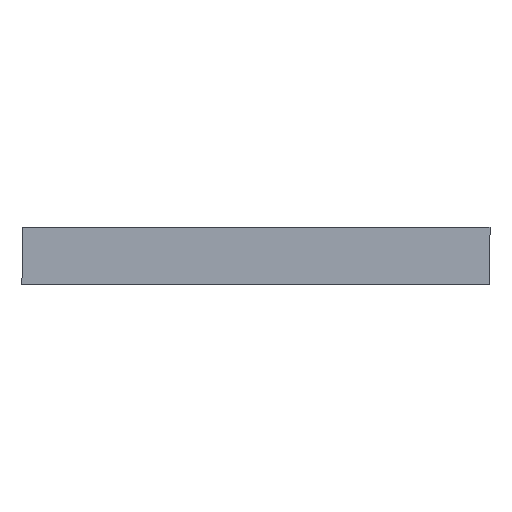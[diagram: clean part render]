
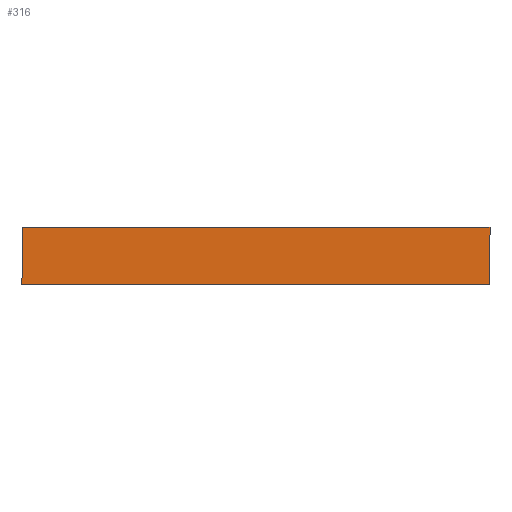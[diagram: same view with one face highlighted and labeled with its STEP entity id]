
A CAD part, left-side view. The second image highlights one B-rep face of the part: STEP entity #316.
In plain terms, the highlighted planar face has unit normal (-1, 0, 0).
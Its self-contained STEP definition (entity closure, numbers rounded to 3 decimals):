
#11 = EDGE_CURVE ( 'NONE', #539, #551, #213, .T. ) ;
#53 = EDGE_CURVE ( 'NONE', #544, #565, #159, .T. ) ;
#56 = EDGE_CURVE ( 'NONE', #544, #539, #190, .T. ) ;
#63 = EDGE_CURVE ( 'NONE', #565, #551, #149, .T. ) ;
#64 = AXIS2_PLACEMENT_3D ( 'NONE', #417, #409, #408 ) ;
#124 = FACE_OUTER_BOUND ( 'NONE', #246, .T. ) ;
#148 = VECTOR ( 'NONE', #481, 1000. ) ;
#149 = LINE ( 'NONE', #483, #148 ) ;
#155 = VECTOR ( 'NONE', #490, 1000. ) ;
#158 = VECTOR ( 'NONE', #498, 1000. ) ;
#159 = LINE ( 'NONE', #499, #158 ) ;
#190 = LINE ( 'NONE', #497, #155 ) ;
#212 = VECTOR ( 'NONE', #410, 1000. ) ;
#213 = LINE ( 'NONE', #415, #212 ) ;
#246 = EDGE_LOOP ( 'NONE', ( #253, #254, #255, #256 ) ) ;
#253 = ORIENTED_EDGE ( 'NONE', *, *, #63, .T. ) ;
#254 = ORIENTED_EDGE ( 'NONE', *, *, #11, .F. ) ;
#255 = ORIENTED_EDGE ( 'NONE', *, *, #56, .F. ) ;
#256 = ORIENTED_EDGE ( 'NONE', *, *, #53, .T. ) ;
#316 = ADVANCED_FACE ( 'NONE', ( #124 ), #421, .F. ) ;
#352 = CARTESIAN_POINT ( 'NONE',  ( -300., 529., 0. ) ) ;
#357 = CARTESIAN_POINT ( 'NONE',  ( -300., 0., 0. ) ) ;
#359 = CARTESIAN_POINT ( 'NONE',  ( -300., 529., 65. ) ) ;
#361 = CARTESIAN_POINT ( 'NONE',  ( -300., 0., 65. ) ) ;
#408 = DIRECTION ( 'NONE',  ( 0., 1., 0. ) ) ;
#409 = DIRECTION ( 'NONE',  ( 1., 0., 0. ) ) ;
#410 = DIRECTION ( 'NONE',  ( 0., 0., -1. ) ) ;
#415 = CARTESIAN_POINT ( 'NONE',  ( -300., 0., 65. ) ) ;
#417 = CARTESIAN_POINT ( 'NONE',  ( -300., 0., 65. ) ) ;
#421 = PLANE ( 'NONE',  #64 ) ;
#481 = DIRECTION ( 'NONE',  ( 0., -1., 0. ) ) ;
#483 = CARTESIAN_POINT ( 'NONE',  ( -300., 0., 0. ) ) ;
#490 = DIRECTION ( 'NONE',  ( 0., -1., 0. ) ) ;
#497 = CARTESIAN_POINT ( 'NONE',  ( -300., 0., 65. ) ) ;
#498 = DIRECTION ( 'NONE',  ( 0., 0., -1. ) ) ;
#499 = CARTESIAN_POINT ( 'NONE',  ( -300., 529., 65. ) ) ;
#539 = VERTEX_POINT ( 'NONE', #361 ) ;
#544 = VERTEX_POINT ( 'NONE', #359 ) ;
#551 = VERTEX_POINT ( 'NONE', #357 ) ;
#565 = VERTEX_POINT ( 'NONE', #352 ) ;
